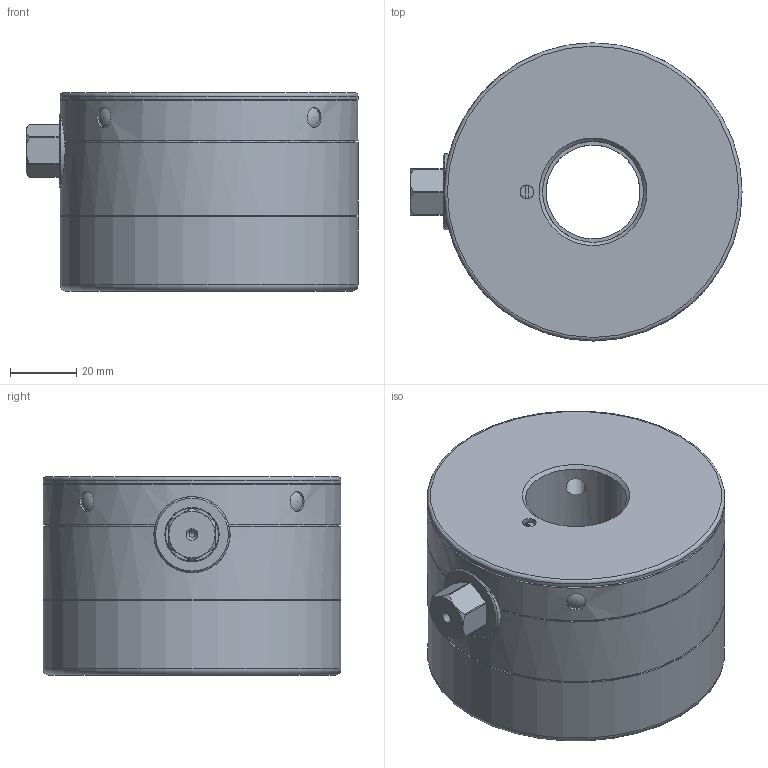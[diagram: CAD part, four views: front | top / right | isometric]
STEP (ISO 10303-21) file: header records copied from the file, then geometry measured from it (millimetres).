
FILE_DESCRIPTION(/* description */ ('Unknown','CAx-IF Rec.Pracs.---Representation and Presentation of Product Manufacturing Information (PMI)---4.0---2014-10-13','CAx-IF Rec.Pracs.---3D Tessellated Geometry---0.4---2014-09-14','2;1'),/* implementation_level */ '2;1');
FILE_NAME(/* name */ 'MDR 120 - M30 - SW 14',/* time_stamp */ '2023-09-26T11:29:00+02:00',/* author */ ('Unknown'),/* organization */ ('Unknown'),/* preprocessor_version */ 'ST-DEVELOPER v18.102',/* originating_system */ 'Solid Edge',/* authorisation */ 'Unknown');
FILE_SCHEMA (('AP242_MANAGED_MODEL_BASED_3D_ENGINEERING_MIM_LF { 1 0 10303 442 1 1 4 }'));
Length unit declared in the file: millimetre
Products named in the file (1): 16333041_Vereinfachung
Bounding box: 100.3 x 90 x 60 mm (x, y, z)
Volume: 340108 mm3; surface area: 36447.1 mm2
Topology: 1 solids, 1 shells, 92 faces, 224 edges, 142 vertices
Faces by surface type: plane 30, cylinder 27, cone 23, sphere 8, torus 4
Full cylindrical faces by diameter (mm): 1.6 x2, 4.134 x1, 6 x8, 12 x1, 16 x1, 28.376 x1, 30.5 x1, 35 x1, 42 x1, 89 x1, 90 x4
Entity records: 2961 total; most frequent: CARTESIAN_POINT 536, DIRECTION 378, ORIENTED_EDGE 286, AXIS2_PLACEMENT_3D 174, FACE_BOUND 154, EDGE_LOOP 152, EDGE_CURVE 143, VERTEX_POINT 113
